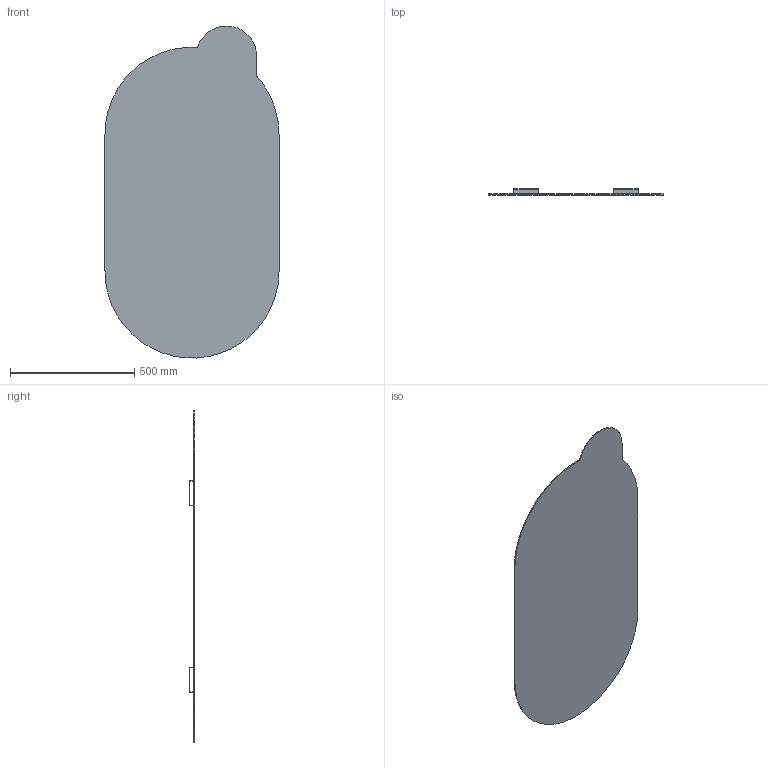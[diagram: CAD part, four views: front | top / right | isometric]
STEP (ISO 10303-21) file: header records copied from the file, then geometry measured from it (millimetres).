
FILE_DESCRIPTION(/* description */ (''),/* implementation_level */ '2;1');
FILE_NAME(/* name */ '3DMODE~1',/* time_stamp */ '2023-08-28T13:19:36+02:00',/* author */ (''),/* organization */ (''),/* preprocessor_version */ 'ST-DEVELOPER v16.5',/* originating_system */ '',/* authorisation */ '');
FILE_SCHEMA (('AUTOMOTIVE_DESIGN'));
Length unit declared in the file: millimetre
Products named in the file (1): Document
Bounding box: 700 x 24 x 1334.88 mm (x, y, z)
Volume: 3348743.1 mm3; surface area: 1779975.6 mm2
Topology: 5 solids, 5 shells, 59 faces, 164 edges, 117 vertices
Faces by surface type: plane 42, bspline 17
Entity records: 2005 total; most frequent: CARTESIAN_POINT 940, ORIENTED_EDGE 294, EDGE_CURVE 147, B_SPLINE_CURVE_WITH_KNOTS 98, VERTEX_POINT 98, EDGE_LOOP 75, ADVANCED_FACE 59, FACE_OUTER_BOUND 59
